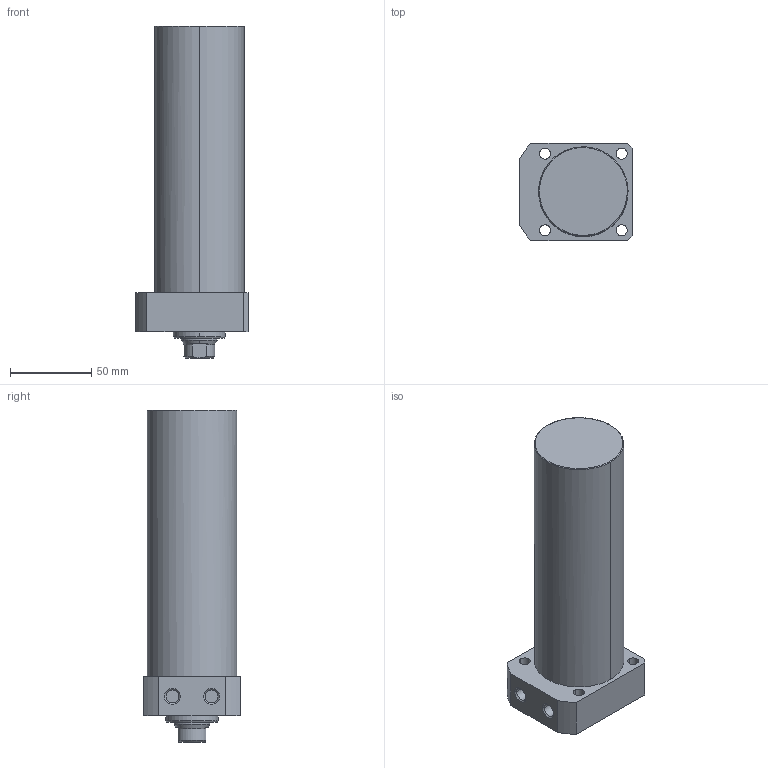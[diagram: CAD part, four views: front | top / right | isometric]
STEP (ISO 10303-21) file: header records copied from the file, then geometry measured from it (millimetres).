
FILE_DESCRIPTION((' '),'2;1');
FILE_NAME( 'TLLR-055CA-135.STEP.stp', '2025-10-24T16:34:43', (' '), ('--- Datakit www.datakit.com---'), ' Datakit CrossCadWare V2024.1 Dec 21 2023', 'Mastercam 2025', ' ');
FILE_SCHEMA(('AUTOMOTIVE_DESIGN { 1 0 10303 214 1 1 1 1 }'));
Length unit declared in the file: millimetre
Products named in the file (1): TLLR-055CA-135
Bounding box: 69 x 60 x 204 mm (x, y, z)
Volume: 487263.5 mm3; surface area: 46624.2 mm2
Topology: 1 solids, 1 shells, 63 faces, 177 edges, 122 vertices
Faces by surface type: cylinder 28, plane 19, cone 14, torus 2
Entity records: 2164 total; most frequent: CARTESIAN_POINT 401, DIRECTION 400, ORIENTED_EDGE 350, EDGE_CURVE 175, AXIS2_PLACEMENT_3D 169, VERTEX_POINT 122, CIRCLE 105, EDGE_LOOP 79
